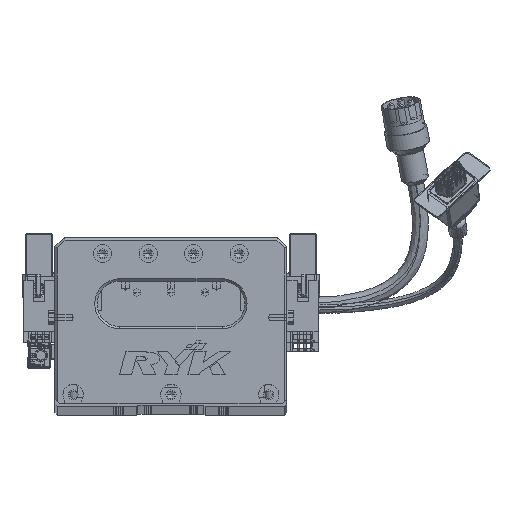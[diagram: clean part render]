
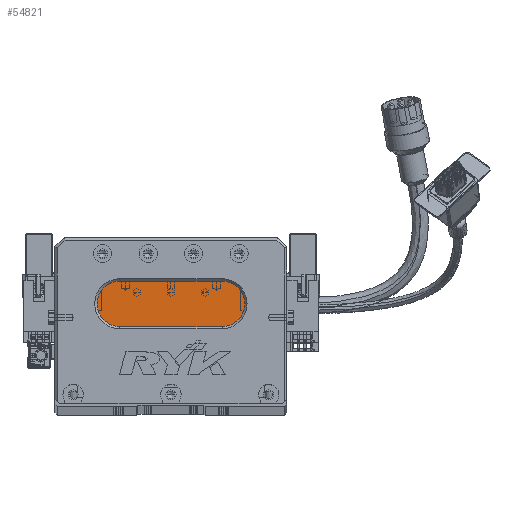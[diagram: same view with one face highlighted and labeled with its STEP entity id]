
A CAD part, top view. The second image highlights one B-rep face of the part: STEP entity #54821.
In plain terms, the highlighted planar face has unit normal (0, 0, 1) as drawn and (0, 0, -1) by its records, which use the part's own axes.
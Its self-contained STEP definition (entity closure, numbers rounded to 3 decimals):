
#9704 = AXIS2_PLACEMENT_3D ( 'NONE', #16686, #61622, #73959 ) ;
#12539 = EDGE_CURVE ( 'NONE', #37161, #15886, #13442, .T. ) ;
#13442 = CIRCLE ( 'NONE', #81756, 10. ) ;
#13834 = CARTESIAN_POINT ( 'NONE',  ( 73.5, 54., 13. ) ) ;
#14902 = DIRECTION ( 'NONE',  ( 0., 0., -1. ) ) ;
#15504 = EDGE_LOOP ( 'NONE', ( #39916, #37223, #41809, #18026, #45580 ) ) ;
#15886 = VERTEX_POINT ( 'NONE', #80198 ) ;
#16686 = CARTESIAN_POINT ( 'NONE',  ( 73.5, 44., 13. ) ) ;
#17700 = LINE ( 'NONE', #49426, #54916 ) ;
#18026 = ORIENTED_EDGE ( 'NONE', *, *, #12539, .T. ) ;
#19715 = CARTESIAN_POINT ( 'NONE',  ( 73.5, 54., 13. ) ) ;
#21430 = EDGE_CURVE ( 'NONE', #15886, #55578, #31375, .T. ) ;
#22872 = EDGE_CURVE ( 'NONE', #55578, #73025, #47288, .T. ) ;
#29433 = DIRECTION ( 'NONE',  ( 0., 0., -1. ) ) ;
#30146 = DIRECTION ( 'NONE',  ( 0., 0., -1. ) ) ;
#31188 = CIRCLE ( 'NONE', #65905, 10. ) ;
#31375 = LINE ( 'NONE', #19715, #44379 ) ;
#33461 = PLANE ( 'NONE',  #38119 ) ;
#34582 = EDGE_CURVE ( 'NONE', #73025, #52506, #17700, .T. ) ;
#35497 = CARTESIAN_POINT ( 'NONE',  ( 28.5, 44., 13. ) ) ;
#37161 = VERTEX_POINT ( 'NONE', #75075 ) ;
#37223 = ORIENTED_EDGE ( 'NONE', *, *, #34582, .T. ) ;
#38119 = AXIS2_PLACEMENT_3D ( 'NONE', #80040, #14902, #60664 ) ;
#39916 = ORIENTED_EDGE ( 'NONE', *, *, #22872, .T. ) ;
#41809 = ORIENTED_EDGE ( 'NONE', *, *, #51821, .T. ) ;
#44379 = VECTOR ( 'NONE', #76743, 1000. ) ;
#45580 = ORIENTED_EDGE ( 'NONE', *, *, #21430, .T. ) ;
#47288 = CIRCLE ( 'NONE', #9704, 10. ) ;
#48476 = CARTESIAN_POINT ( 'NONE',  ( 73.5, 34., 13. ) ) ;
#48531 = CARTESIAN_POINT ( 'NONE',  ( 28.5, 34., 13. ) ) ;
#48732 = FACE_OUTER_BOUND ( 'NONE', #15504, .T. ) ;
#49426 = CARTESIAN_POINT ( 'NONE',  ( 73.5, 34., 13. ) ) ;
#51821 = EDGE_CURVE ( 'NONE', #52506, #37161, #31188, .T. ) ;
#52506 = VERTEX_POINT ( 'NONE', #48531 ) ;
#54821 = ADVANCED_FACE ( 'NONE', ( #48732 ), #33461, .T. ) ;
#54916 = VECTOR ( 'NONE', #75534, 1000. ) ;
#55578 = VERTEX_POINT ( 'NONE', #13834 ) ;
#60664 = DIRECTION ( 'NONE',  ( -1., 0., 0. ) ) ;
#61622 = DIRECTION ( 'NONE',  ( 0., 0., -1. ) ) ;
#65905 = AXIS2_PLACEMENT_3D ( 'NONE', #35497, #30146, #75039 ) ;
#73025 = VERTEX_POINT ( 'NONE', #48476 ) ;
#73781 = DIRECTION ( 'NONE',  ( -1., 0., 0. ) ) ;
#73959 = DIRECTION ( 'NONE',  ( -1., 0., 0. ) ) ;
#75039 = DIRECTION ( 'NONE',  ( -1., 0., 0. ) ) ;
#75075 = CARTESIAN_POINT ( 'NONE',  ( 18.5, 44., 13. ) ) ;
#75534 = DIRECTION ( 'NONE',  ( -1., 0., 0. ) ) ;
#76743 = DIRECTION ( 'NONE',  ( 1., 0., 0. ) ) ;
#80040 = CARTESIAN_POINT ( 'NONE',  ( 73.5, 44., 13. ) ) ;
#80198 = CARTESIAN_POINT ( 'NONE',  ( 28.5, 54., 13. ) ) ;
#80823 = CARTESIAN_POINT ( 'NONE',  ( 28.5, 44., 13. ) ) ;
#81756 = AXIS2_PLACEMENT_3D ( 'NONE', #80823, #29433, #73781 ) ;
